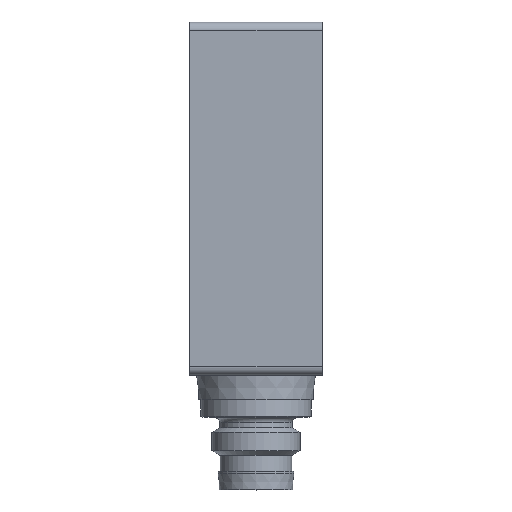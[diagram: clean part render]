
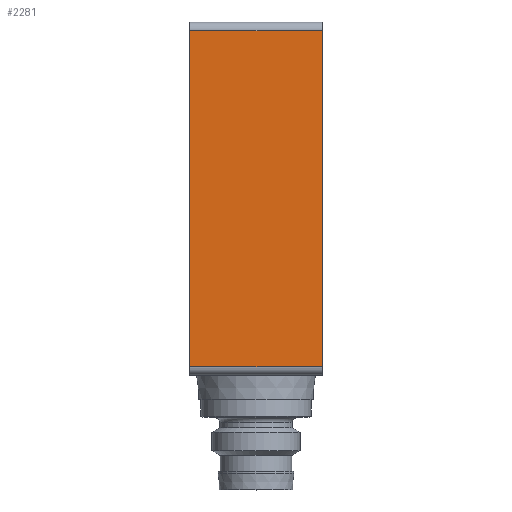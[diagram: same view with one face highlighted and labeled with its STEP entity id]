
A CAD part, left-side view. The second image highlights one B-rep face of the part: STEP entity #2281.
In plain terms, the highlighted planar face has unit normal (-1, 0, 0).
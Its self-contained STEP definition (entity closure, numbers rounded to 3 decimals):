
#345=FACE_OUTER_BOUND('',#505,.T.);
#505=EDGE_LOOP('',(#1747,#1748,#1749,#1750));
#715=LINE('',#3661,#895);
#716=LINE('',#3663,#896);
#717=LINE('',#3665,#897);
#718=LINE('',#3666,#898);
#895=VECTOR('',#2953,30.5);
#896=VECTOR('',#2954,12.);
#897=VECTOR('',#2955,30.5);
#898=VECTOR('',#2956,12.);
#1075=VERTEX_POINT('',#3659);
#1076=VERTEX_POINT('',#3660);
#1077=VERTEX_POINT('',#3662);
#1078=VERTEX_POINT('',#3664);
#1334=EDGE_CURVE('',#1075,#1076,#715,.T.);
#1335=EDGE_CURVE('',#1077,#1076,#716,.T.);
#1336=EDGE_CURVE('',#1078,#1077,#717,.T.);
#1337=EDGE_CURVE('',#1078,#1075,#718,.T.);
#1747=ORIENTED_EDGE('',*,*,#1334,.T.);
#1748=ORIENTED_EDGE('',*,*,#1335,.F.);
#1749=ORIENTED_EDGE('',*,*,#1336,.F.);
#1750=ORIENTED_EDGE('',*,*,#1337,.T.);
#2183=PLANE('',#2478);
#2281=ADVANCED_FACE('',(#345),#2183,.T.);
#2478=AXIS2_PLACEMENT_3D('',#3658,#2951,#2952);
#2951=DIRECTION('center_axis',(-1.,0.,0.));
#2952=DIRECTION('ref_axis',(0.,-1.,0.));
#2953=DIRECTION('',(0.,0.,1.));
#2954=DIRECTION('',(0.,-1.,0.));
#2955=DIRECTION('',(0.,0.,1.));
#2956=DIRECTION('',(0.,-1.,0.));
#3658=CARTESIAN_POINT('Origin',(462.609,447.068,30.71));
#3659=CARTESIAN_POINT('',(462.609,435.068,30.71));
#3660=CARTESIAN_POINT('',(462.609,435.068,61.21));
#3661=CARTESIAN_POINT('',(462.609,435.068,45.96));
#3662=CARTESIAN_POINT('',(462.609,447.068,61.21));
#3663=CARTESIAN_POINT('',(462.609,447.068,61.21));
#3664=CARTESIAN_POINT('',(462.609,447.068,30.71));
#3665=CARTESIAN_POINT('',(462.609,447.068,45.96));
#3666=CARTESIAN_POINT('',(462.609,447.068,30.71));
